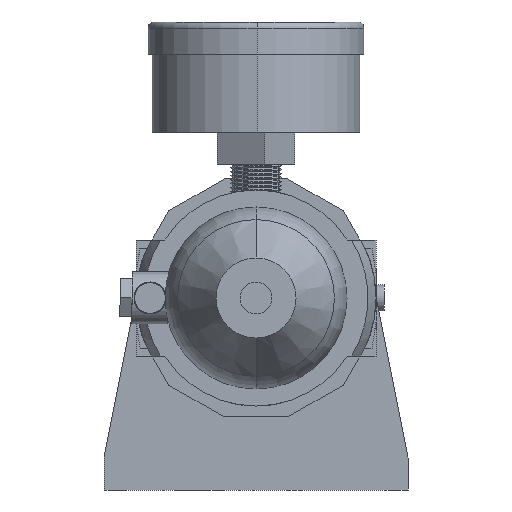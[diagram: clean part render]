
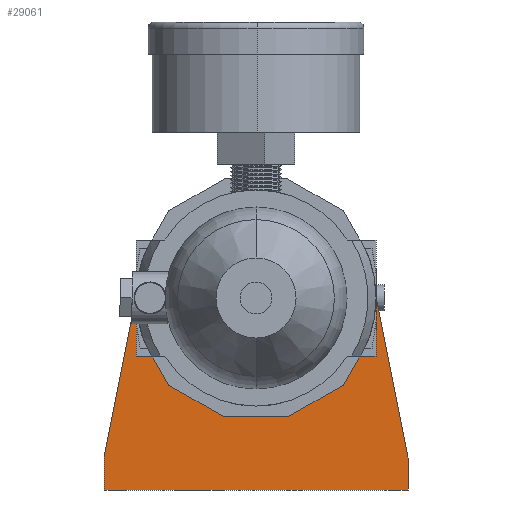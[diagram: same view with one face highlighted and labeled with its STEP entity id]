
A CAD part, front view. The second image highlights one B-rep face of the part: STEP entity #29061.
In plain terms, the highlighted planar face has unit normal (0, -1, 0).
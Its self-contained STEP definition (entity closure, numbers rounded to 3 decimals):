
#21 = VERTEX_POINT ( 'NONE', #2819 ) ;
#450 = VERTEX_POINT ( 'NONE', #30121 ) ;
#572 = CARTESIAN_POINT ( 'NONE',  ( 38., 0., -48. ) ) ;
#1270 = DIRECTION ( 'NONE',  ( 0., 0., 1. ) ) ;
#1573 = ORIENTED_EDGE ( 'NONE', *, *, #22928, .F. ) ;
#2275 = EDGE_LOOP ( 'NONE', ( #5360, #9761, #17937, #22485, #4992, #1573 ) ) ;
#2314 = EDGE_LOOP ( 'NONE', ( #28990, #4711 ) ) ;
#2750 = EDGE_CURVE ( 'NONE', #21, #450, #16109, .T. ) ;
#2819 = CARTESIAN_POINT ( 'NONE',  ( 38., 0., -48. ) ) ;
#3072 = EDGE_CURVE ( 'NONE', #22781, #22979, #25001, .T. ) ;
#3540 = CARTESIAN_POINT ( 'NONE',  ( 38., 0., -40. ) ) ;
#3766 = PLANE ( 'NONE',  #20214 ) ;
#4376 = VECTOR ( 'NONE', #21297, 1000. ) ;
#4711 = ORIENTED_EDGE ( 'NONE', *, *, #24667, .T. ) ;
#4992 = ORIENTED_EDGE ( 'NONE', *, *, #7807, .F. ) ;
#5360 = ORIENTED_EDGE ( 'NONE', *, *, #3072, .F. ) ;
#5562 = CIRCLE ( 'NONE', #14489, 29.5 ) ;
#6440 = DIRECTION ( 'NONE',  ( 0., 1., 0. ) ) ;
#7807 = EDGE_CURVE ( 'NONE', #27303, #15944, #24260, .T. ) ;
#8905 = CARTESIAN_POINT ( 'NONE',  ( 0., 0., 0. ) ) ;
#9523 = DIRECTION ( 'NONE',  ( 0., 1., 0. ) ) ;
#9623 = CIRCLE ( 'NONE', #9722, 24. ) ;
#9722 = AXIS2_PLACEMENT_3D ( 'NONE', #14525, #9523, #19581 ) ;
#9761 = ORIENTED_EDGE ( 'NONE', *, *, #10588, .F. ) ;
#10588 = EDGE_CURVE ( 'NONE', #450, #22781, #19088, .T. ) ;
#10985 = DIRECTION ( 'NONE',  ( 0.194, 0., -0.981 ) ) ;
#11011 = EDGE_CURVE ( 'NONE', #15944, #21, #31451, .T. ) ;
#11725 = CARTESIAN_POINT ( 'NONE',  ( -28.937, 0., 5.734 ) ) ;
#12031 = CARTESIAN_POINT ( 'NONE',  ( -38., 0., -48. ) ) ;
#13829 = DIRECTION ( 'NONE',  ( 0., 0., 1. ) ) ;
#14489 = AXIS2_PLACEMENT_3D ( 'NONE', #16501, #6440, #31627 ) ;
#14525 = CARTESIAN_POINT ( 'NONE',  ( 0., 0., 0. ) ) ;
#14727 = FACE_BOUND ( 'NONE', #2314, .T. ) ;
#15944 = VERTEX_POINT ( 'NONE', #23323 ) ;
#16109 = LINE ( 'NONE', #24779, #24245 ) ;
#16273 = EDGE_CURVE ( 'NONE', #27725, #16747, #9623, .T. ) ;
#16501 = CARTESIAN_POINT ( 'NONE',  ( 0., 0., 0. ) ) ;
#16747 = VERTEX_POINT ( 'NONE', #18372 ) ;
#17125 = VECTOR ( 'NONE', #19363, 1000. ) ;
#17937 = ORIENTED_EDGE ( 'NONE', *, *, #2750, .F. ) ;
#18140 = CARTESIAN_POINT ( 'NONE',  ( -38., 0., -40. ) ) ;
#18372 = CARTESIAN_POINT ( 'NONE',  ( 0., 0., -24. ) ) ;
#18450 = CARTESIAN_POINT ( 'NONE',  ( 0., 0., 0. ) ) ;
#19088 = LINE ( 'NONE', #12031, #17125 ) ;
#19363 = DIRECTION ( 'NONE',  ( 0., 0., 1. ) ) ;
#19581 = DIRECTION ( 'NONE',  ( 0., 0., 1. ) ) ;
#20016 = CARTESIAN_POINT ( 'NONE',  ( 28.937, 0., 5.734 ) ) ;
#20108 = DIRECTION ( 'NONE',  ( 0.194, 0., 0.981 ) ) ;
#20214 = AXIS2_PLACEMENT_3D ( 'NONE', #18450, #21059, #13829 ) ;
#21059 = DIRECTION ( 'NONE',  ( 0., 1., 0. ) ) ;
#21297 = DIRECTION ( 'NONE',  ( 0., 0., -1. ) ) ;
#21922 = VECTOR ( 'NONE', #10985, 1000. ) ;
#21941 = CARTESIAN_POINT ( 'NONE',  ( 0., 0., 24. ) ) ;
#22485 = ORIENTED_EDGE ( 'NONE', *, *, #11011, .F. ) ;
#22781 = VERTEX_POINT ( 'NONE', #26917 ) ;
#22928 = EDGE_CURVE ( 'NONE', #22979, #27303, #5562, .T. ) ;
#22979 = VERTEX_POINT ( 'NONE', #11725 ) ;
#23323 = CARTESIAN_POINT ( 'NONE',  ( 38., 0., -40. ) ) ;
#24245 = VECTOR ( 'NONE', #29516, 1000. ) ;
#24260 = LINE ( 'NONE', #3540, #21922 ) ;
#24667 = EDGE_CURVE ( 'NONE', #16747, #27725, #30473, .T. ) ;
#24779 = CARTESIAN_POINT ( 'NONE',  ( -38., 0., -48. ) ) ;
#25001 = LINE ( 'NONE', #18140, #27706 ) ;
#25967 = FACE_OUTER_BOUND ( 'NONE', #2275, .T. ) ;
#26229 = DIRECTION ( 'NONE',  ( 0., 1., 0. ) ) ;
#26917 = CARTESIAN_POINT ( 'NONE',  ( -38., 0., -40. ) ) ;
#26949 = AXIS2_PLACEMENT_3D ( 'NONE', #8905, #26229, #1270 ) ;
#27303 = VERTEX_POINT ( 'NONE', #20016 ) ;
#27706 = VECTOR ( 'NONE', #20108, 1000. ) ;
#27725 = VERTEX_POINT ( 'NONE', #21941 ) ;
#28990 = ORIENTED_EDGE ( 'NONE', *, *, #16273, .T. ) ;
#29061 = ADVANCED_FACE ( 'NONE', ( #14727, #25967 ), #3766, .F. ) ;
#29516 = DIRECTION ( 'NONE',  ( -1., 0., 0. ) ) ;
#30121 = CARTESIAN_POINT ( 'NONE',  ( -38., 0., -48. ) ) ;
#30473 = CIRCLE ( 'NONE', #26949, 24. ) ;
#31451 = LINE ( 'NONE', #572, #4376 ) ;
#31627 = DIRECTION ( 'NONE',  ( 0., 0., 1. ) ) ;
